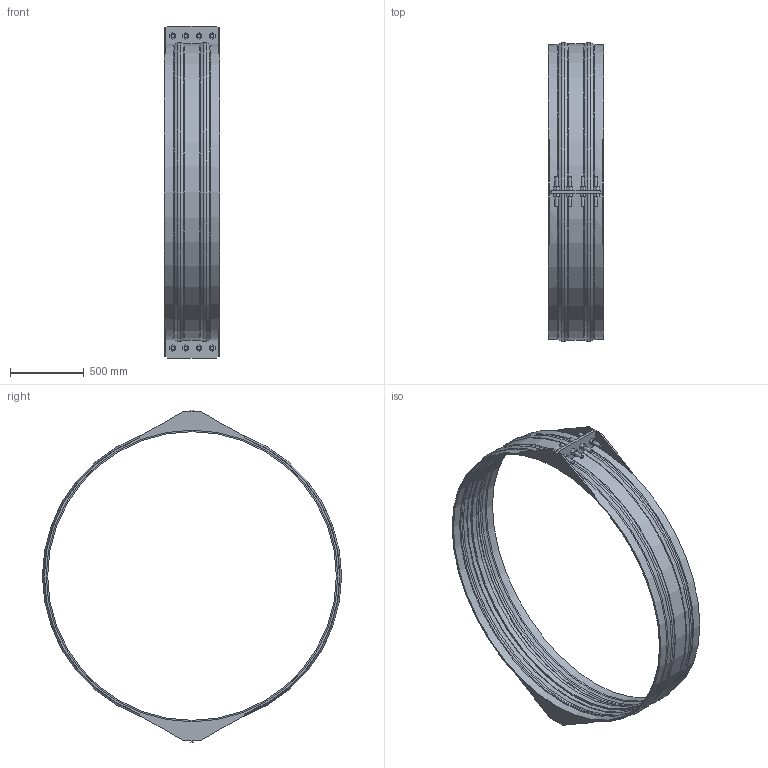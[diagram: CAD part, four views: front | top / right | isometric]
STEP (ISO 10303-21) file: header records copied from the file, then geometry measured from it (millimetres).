
FILE_DESCRIPTION(/* description */ ('VIC SS RESTRAINED COUPLING STYLE 233S (FLEX) (BRD)','CAx-IF Rec.Pracs.---Representation and Presentation of Product Manufacturing Information (PMI)---4.0---2014-10-13'),/* implementation_level */ '2;1');
FILE_NAME(/* name */ 'C:\Users\kkamble\AppData\Roaming\Autodesk\ApplicationPlugins\Back Up\Victaulic_VBSP_Coupling Flexible Restrained_Style 233S (BRD)\Victaulic_VBSP_Coupling Flexible Restrained_Style 233S (BRD)_100psi_78 (1950).stp',/* time_stamp */ '2020-09-22T18:31:17+05:00',/* author */ ('Vjadhav'),/* organization */ ('Victaulic'),/* preprocessor_version */ 'ST-DEVELOPER v17.2',/* originating_system */ 'Autodesk Inventor 2019',/* authorisation */ '');
FILE_SCHEMA (('AP242_MANAGED_MODEL_BASED_3D_ENGINEERING_MIM_LF { 1 0 10303 442 1 1 4 }'));
Length unit declared in the file: inch
Products named in the file (1): Style_233S_Type_2_100psi-78.0
Bounding box: 374.65 x 2033.29 x 2256.79 mm (x, y, z)
Volume: 37809778.1 mm3; surface area: 5810155.3 mm2
Topology: 1 solids, 1 shells, 239 faces, 625 edges, 422 vertices
Faces by surface type: plane 166, cylinder 43, torus 18, cone 12
Full cylindrical faces by diameter (mm): 25.4 x16, 1962.15 x1, 1981.2 x2, 1987.55 x2
Entity records: 7896 total; most frequent: CARTESIAN_POINT 1496, DIRECTION 1259, ORIENTED_EDGE 1250, EDGE_CURVE 625, LINE 449, VECTOR 449, VERTEX_POINT 422, AXIS2_PLACEMENT_3D 405
